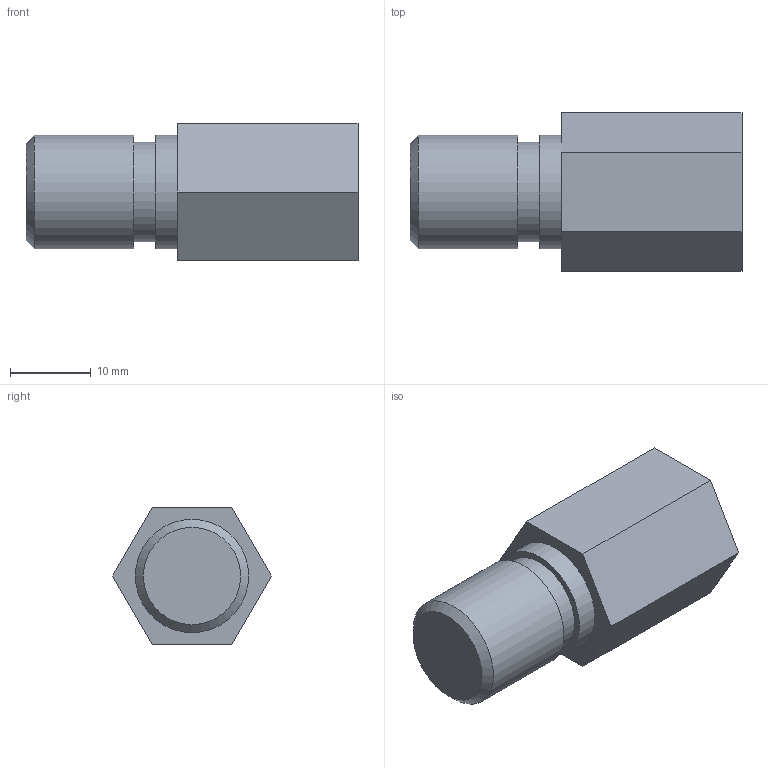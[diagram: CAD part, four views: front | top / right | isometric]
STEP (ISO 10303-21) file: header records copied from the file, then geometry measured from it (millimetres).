
FILE_DESCRIPTION((''),'2;1');
FILE_NAME('Z:\客先\あ行\アオイ\99_その他\3D_DATA\CPR_Series\11CPR-SPV-RC-C\STEP\203\CPR-SPV-RC1-4-C.ipt.stp','2008-07-03T16:29:59',(''),(''),'Autodesk Inventor 2009','Autodesk Inventor 2009','');
FILE_SCHEMA(('CONFIG_CONTROL_DESIGN'));
Length unit declared in the file: millimetre
Products named in the file (1): CPR-SPV-RC1-4-C
Bounding box: 41 x 19.63 x 17 mm (x, y, z)
Volume: 6593.1 mm3; surface area: 3183.3 mm2
Topology: 1 solids, 1 shells, 17 faces, 32 edges, 21 vertices
Faces by surface type: plane 12, cylinder 3, cone 2
Full cylindrical faces by diameter (mm): 12.3 x1, 14 x2
Entity records: 419 total; most frequent: DIRECTION 72, CARTESIAN_POINT 66, ORIENTED_EDGE 54, AXIS2_PLACEMENT_3D 27, EDGE_CURVE 27, EDGE_LOOP 26, VERTEX_POINT 21, VECTOR 18
